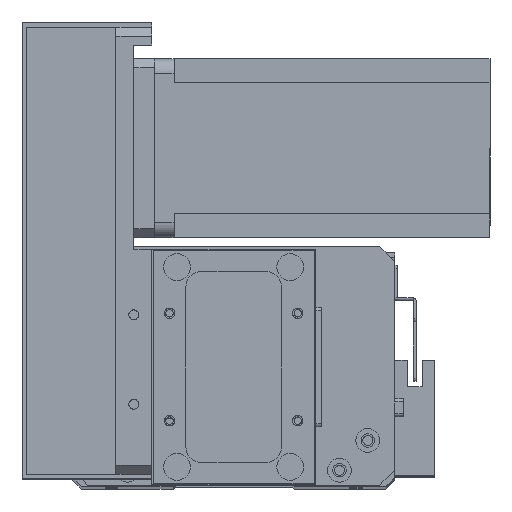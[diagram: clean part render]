
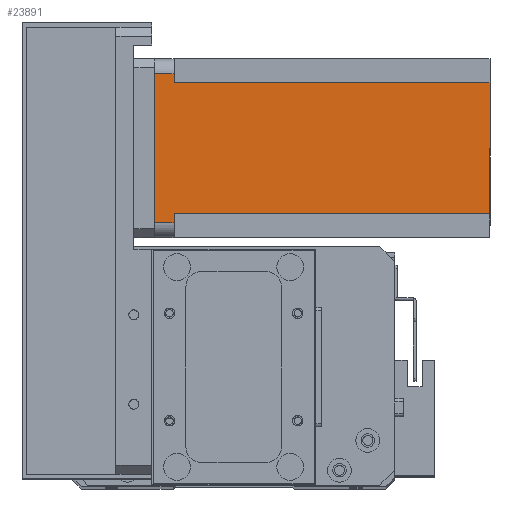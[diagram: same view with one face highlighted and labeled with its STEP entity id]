
A CAD part, top view. The second image highlights one B-rep face of the part: STEP entity #23891.
In plain terms, the highlighted planar face has unit normal (0, 0, 1) as drawn and (0, -1, 0) by its records, which use the part's own axes.
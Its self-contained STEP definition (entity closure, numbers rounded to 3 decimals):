
#18 = ORIENTED_EDGE ( 'NONE', *, *, #17054, .T. ) ;
#349 = CARTESIAN_POINT ( 'NONE',  ( 52., 0., -112.5 ) ) ;
#1773 = DIRECTION ( 'NONE',  ( 1., 0., 0. ) ) ;
#1862 = DIRECTION ( 'NONE',  ( 0., 0., -1. ) ) ;
#1979 = LINE ( 'NONE', #12032, #14151 ) ;
#2657 = DIRECTION ( 'NONE',  ( 0., 0., -1. ) ) ;
#2682 = LINE ( 'NONE', #13681, #8360 ) ;
#3594 = ORIENTED_EDGE ( 'NONE', *, *, #16342, .F. ) ;
#4261 = CARTESIAN_POINT ( 'NONE',  ( 52., 0., -6.5 ) ) ;
#4865 = DIRECTION ( 'NONE',  ( 1., 0., 0. ) ) ;
#4950 = LINE ( 'NONE', #20019, #27254 ) ;
#5289 = VERTEX_POINT ( 'NONE', #19284 ) ;
#5841 = VERTEX_POINT ( 'NONE', #11014 ) ;
#6124 = VERTEX_POINT ( 'NONE', #16388 ) ;
#6387 = CARTESIAN_POINT ( 'NONE',  ( 5., 0., 0. ) ) ;
#6529 = LINE ( 'NONE', #349, #23735 ) ;
#7927 = FACE_OUTER_BOUND ( 'NONE', #8255, .T. ) ;
#8255 = EDGE_LOOP ( 'NONE', ( #16130, #18, #3594, #23320, #16895, #25861, #11745, #8783 ) ) ;
#8360 = VECTOR ( 'NONE', #15936, 1000. ) ;
#8783 = ORIENTED_EDGE ( 'NONE', *, *, #17174, .F. ) ;
#9086 = CARTESIAN_POINT ( 'NONE',  ( 5., 0., -112.5 ) ) ;
#9630 = DIRECTION ( 'NONE',  ( 0., -1., 0. ) ) ;
#10075 = CARTESIAN_POINT ( 'NONE',  ( 55., 0., -6.5 ) ) ;
#10328 = VERTEX_POINT ( 'NONE', #4261 ) ;
#11014 = CARTESIAN_POINT ( 'NONE',  ( 52., 0., -112.5 ) ) ;
#11232 = DIRECTION ( 'NONE',  ( 0., 0., 1. ) ) ;
#11745 = ORIENTED_EDGE ( 'NONE', *, *, #17143, .T. ) ;
#12032 = CARTESIAN_POINT ( 'NONE',  ( 0., 0., -112.5 ) ) ;
#12861 = CARTESIAN_POINT ( 'NONE',  ( 0., 0., 0. ) ) ;
#13442 = VECTOR ( 'NONE', #25067, 1000. ) ;
#13681 = CARTESIAN_POINT ( 'NONE',  ( 8., 0., -6.5 ) ) ;
#14151 = VECTOR ( 'NONE', #4865, 1000. ) ;
#15734 = CARTESIAN_POINT ( 'NONE',  ( 55., 0., -112.5 ) ) ;
#15841 = VECTOR ( 'NONE', #11232, 1000. ) ;
#15936 = DIRECTION ( 'NONE',  ( -1., 0., 0. ) ) ;
#16130 = ORIENTED_EDGE ( 'NONE', *, *, #17049, .T. ) ;
#16236 = VERTEX_POINT ( 'NONE', #10075 ) ;
#16342 = EDGE_CURVE ( 'NONE', #25762, #5289, #27961, .T. ) ;
#16366 = CARTESIAN_POINT ( 'NONE',  ( 0., 0., -112.5 ) ) ;
#16388 = CARTESIAN_POINT ( 'NONE',  ( 5., 0., -6.5 ) ) ;
#16615 = VECTOR ( 'NONE', #23802, 1000. ) ;
#16895 = ORIENTED_EDGE ( 'NONE', *, *, #17092, .F. ) ;
#17049 = EDGE_CURVE ( 'NONE', #10328, #16236, #4950, .T. ) ;
#17054 = EDGE_CURVE ( 'NONE', #16236, #5289, #28538, .T. ) ;
#17090 = EDGE_CURVE ( 'NONE', #25762, #6124, #21133, .T. ) ;
#17092 = EDGE_CURVE ( 'NONE', #28565, #6124, #2682, .T. ) ;
#17141 = EDGE_CURVE ( 'NONE', #19415, #28565, #19466, .T. ) ;
#17143 = EDGE_CURVE ( 'NONE', #19415, #5841, #1979, .T. ) ;
#17174 = EDGE_CURVE ( 'NONE', #10328, #5841, #6529, .T. ) ;
#19284 = CARTESIAN_POINT ( 'NONE',  ( 55., 0., 0. ) ) ;
#19405 = AXIS2_PLACEMENT_3D ( 'NONE', #16366, #9630, #25013 ) ;
#19415 = VERTEX_POINT ( 'NONE', #25183 ) ;
#19466 = LINE ( 'NONE', #22558, #13442 ) ;
#20019 = CARTESIAN_POINT ( 'NONE',  ( 52., 0., -6.5 ) ) ;
#20436 = VECTOR ( 'NONE', #1862, 1000. ) ;
#21133 = LINE ( 'NONE', #9086, #20436 ) ;
#22558 = CARTESIAN_POINT ( 'NONE',  ( 8., 0., -112.5 ) ) ;
#22946 = PLANE ( 'NONE',  #19405 ) ;
#23320 = ORIENTED_EDGE ( 'NONE', *, *, #17090, .T. ) ;
#23735 = VECTOR ( 'NONE', #2657, 1000. ) ;
#23802 = DIRECTION ( 'NONE',  ( 1., 0., 0. ) ) ;
#23891 = ADVANCED_FACE ( 'NONE', ( #7927 ), #22946, .T. ) ;
#25013 = DIRECTION ( 'NONE',  ( 0., 0., -1. ) ) ;
#25067 = DIRECTION ( 'NONE',  ( 0., 0., 1. ) ) ;
#25183 = CARTESIAN_POINT ( 'NONE',  ( 8., 0., -112.5 ) ) ;
#25762 = VERTEX_POINT ( 'NONE', #6387 ) ;
#25861 = ORIENTED_EDGE ( 'NONE', *, *, #17141, .F. ) ;
#25901 = CARTESIAN_POINT ( 'NONE',  ( 8., 0., -6.5 ) ) ;
#27254 = VECTOR ( 'NONE', #1773, 1000. ) ;
#27961 = LINE ( 'NONE', #12861, #16615 ) ;
#28538 = LINE ( 'NONE', #15734, #15841 ) ;
#28565 = VERTEX_POINT ( 'NONE', #25901 ) ;
